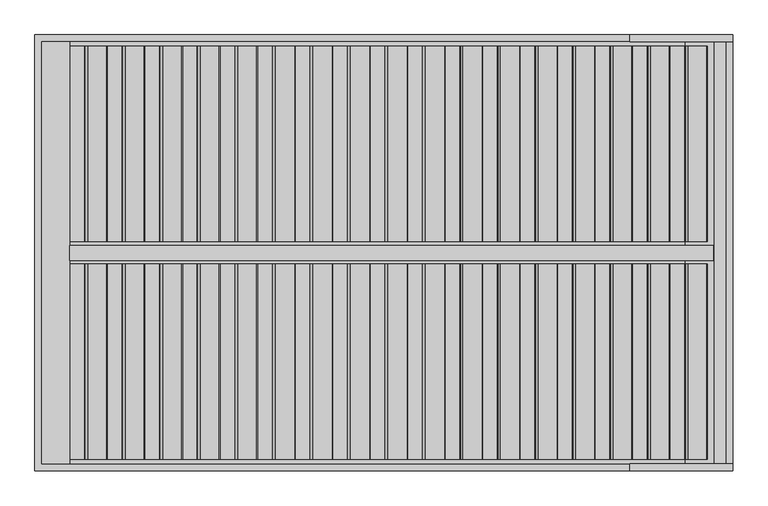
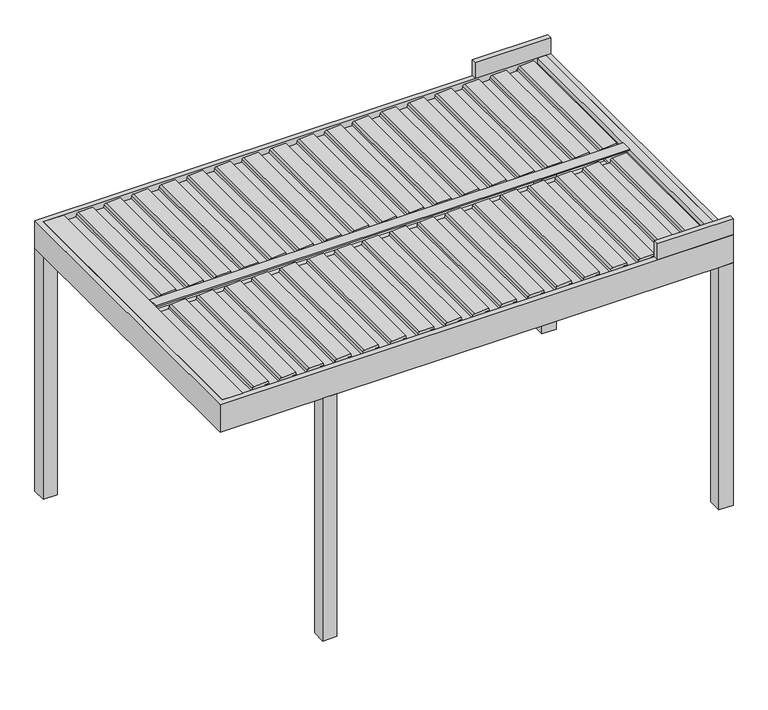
"""IFC4 building model written with IfcOpenShell, lengths in millimetres: proxy geometry, Renson_Algarve_Single Unit With Intermediate Beam : Algarve - Single Unit With Intermediate Beam."""

from ifc_helpers import new_model, si_unit, point, frame, frame_2d, origin, origin_with_axes, place, context, project, spatial, polyline, circle_curve, trimmed, segment, composite_curve, outline, extrude, faceted_brep, source, transform, mapped, element, save


def generic_models_242e71fc(model_context):
    return source(origin(), model_context, "Body", "SolidModel", [
        extrude(outline(composite_curve([segment(polyline([(2188.35, 1609.6114167), (2216.01198, 1612.0315264), (2217.3970364, 1640.8667769), (2236.8911096, 1637.4294458), (2231.6075693, 1527.4323309)]), True, "CONTINUOUS"), segment(trimmed(circle_curve(frame_2d((2216.6248435, 1528.1520029)), 15.0), [point((2231.6075693, 1527.4323309))], [point((2219.2295662, 1513.3798866))], False, "CARTESIAN"), True, "CONTINUOUS"), segment(polyline([(2219.2295662, 1513.3798866), (2200.0, 1509.9891952), (2200.0, 1422.2534192), (2217.0788237, 1419.2419618), (2216.3450182, 1403.9649913), (2188.35, 1401.5157446), (2188.35, 1609.6114167)]), True, "CONTINUOUS")], self_intersect=False)), frame((0.0, -1810.0, 0.0), z_axis=(0.0, 1.0, 0.0), x_axis=(0.0, 0.0, 1.0)), (0.0, 0.0, 1.0), 1120.0),
        extrude(outline(composite_curve([segment(polyline([(2188.35, 1394.600612), (2216.01198, 1397.0207216), (2217.3970364, 1425.8559721), (2236.8911096, 1422.418641), (2231.6075693, 1312.4215261)]), True, "CONTINUOUS"), segment(trimmed(circle_curve(frame_2d((2216.6248435, 1313.1411981)), 15.0), [point((2231.6075693, 1312.4215261))], [point((2219.2295662, 1298.3690818))], False, "CARTESIAN"), True, "CONTINUOUS"), segment(polyline([(2219.2295662, 1298.3690818), (2200.0, 1294.9783904), (2200.0, 1207.2426144), (2217.0788237, 1204.231157), (2216.3450182, 1188.9541865), (2188.35, 1186.5049398), (2188.35, 1394.600612)]), True, "CONTINUOUS")], self_intersect=False)), frame((0.0, -1810.0, 0.0), z_axis=(0.0, 1.0, 0.0), x_axis=(0.0, 0.0, 1.0)), (0.0, 0.0, 1.0), 1120.0),
        extrude(outline(composite_curve([segment(polyline([(2188.35, 1179.5898072), (2216.01198, 1182.0099168), (2217.3970364, 1210.8451673), (2236.8911096, 1207.4078362), (2231.6075693, 1097.4107214)]), True, "CONTINUOUS"), segment(trimmed(circle_curve(frame_2d((2216.6248435, 1098.1303933)), 15.0), [point((2231.6075693, 1097.4107214))], [point((2219.2295662, 1083.358277))], False, "CARTESIAN"), True, "CONTINUOUS"), segment(polyline([(2219.2295662, 1083.358277), (2200.0, 1079.9675857), (2200.0, 992.2318096), (2217.0788237, 989.2203522), (2216.3450182, 973.9433817), (2188.35, 971.494135), (2188.35, 1179.5898072)]), True, "CONTINUOUS")], self_intersect=False)), frame((0.0, -1810.0, 0.0), z_axis=(0.0, 1.0, 0.0), x_axis=(0.0, 0.0, 1.0)), (0.0, 0.0, 1.0), 1120.0),
        extrude(outline(composite_curve([segment(polyline([(2188.35, 964.5790024), (2216.01198, 966.999112), (2217.3970364, 995.8343625), (2236.8911096, 992.3970314), (2231.6075693, 882.3999166)]), True, "CONTINUOUS"), segment(trimmed(circle_curve(frame_2d((2216.6248435, 883.1195885)), 15.0), [point((2231.6075693, 882.3999166))], [point((2219.2295662, 868.3474722))], False, "CARTESIAN"), True, "CONTINUOUS"), segment(polyline([(2219.2295662, 868.3474722), (2200.0, 864.9567809), (2200.0, 777.2210048), (2217.0788237, 774.2095474), (2216.3450182, 758.932577), (2188.35, 756.4833302), (2188.35, 964.5790024)]), True, "CONTINUOUS")], self_intersect=False)), frame((0.0, -1810.0, 0.0), z_axis=(0.0, 1.0, 0.0), x_axis=(0.0, 0.0, 1.0)), (0.0, 0.0, 1.0), 1120.0),
        extrude(outline(composite_curve([segment(polyline([(2188.35, 749.5681976), (2216.01198, 751.9883073), (2217.3970364, 780.8235577), (2236.8911096, 777.3862267), (2231.6075693, 667.3891118)]), True, "CONTINUOUS"), segment(trimmed(circle_curve(frame_2d((2216.6248435, 668.1087837)), 15.0), [point((2231.6075693, 667.3891118))], [point((2219.2295662, 653.3366674))], False, "CARTESIAN"), True, "CONTINUOUS"), segment(polyline([(2219.2295662, 653.3366674), (2200.0, 649.9459761), (2200.0, 562.2102001), (2217.0788237, 559.1987426), (2216.3450182, 543.9217722), (2188.35, 541.4725254), (2188.35, 749.5681976)]), True, "CONTINUOUS")], self_intersect=False)), frame((0.0, -1810.0, 0.0), z_axis=(0.0, 1.0, 0.0), x_axis=(0.0, 0.0, 1.0)), (0.0, 0.0, 1.0), 1120.0),
        extrude(outline(composite_curve([segment(polyline([(2188.35, 534.5573928), (2216.01198, 536.9775025), (2217.3970364, 565.8127529), (2236.8911096, 562.3754219), (2231.6075693, 452.378307)]), True, "CONTINUOUS"), segment(trimmed(circle_curve(frame_2d((2216.6248435, 453.0979789)), 15.0), [point((2231.6075693, 452.378307))], [point((2219.2295662, 438.3258627))], False, "CARTESIAN"), True, "CONTINUOUS"), segment(polyline([(2219.2295662, 438.3258627), (2200.0, 434.9351713), (2200.0, 347.1993953), (2217.0788237, 344.1879379), (2216.3450182, 328.9109674), (2188.35, 326.4617207), (2188.35, 534.5573928)]), True, "CONTINUOUS")], self_intersect=False)), frame((0.0, -1810.0, 0.0), z_axis=(0.0, 1.0, 0.0), x_axis=(0.0, 0.0, 1.0)), (0.0, 0.0, 1.0), 1120.0),
        extrude(outline(composite_curve([segment(polyline([(2188.35, 319.546588), (2216.01198, 321.9666977), (2217.3970364, 350.8019482), (2236.8911096, 347.3646171), (2231.6075693, 237.3675022)]), True, "CONTINUOUS"), segment(trimmed(circle_curve(frame_2d((2216.6248435, 238.0871742)), 15.0), [point((2231.6075693, 237.3675022))], [point((2219.2295662, 223.3150579))], False, "CARTESIAN"), True, "CONTINUOUS"), segment(polyline([(2219.2295662, 223.3150579), (2200.0, 219.9243665), (2200.0, 132.1885905), (2217.0788237, 129.1771331), (2216.3450182, 113.9001626), (2188.35, 111.4509159), (2188.35, 319.546588)]), True, "CONTINUOUS")], self_intersect=False)), frame((0.0, -1810.0, 0.0), z_axis=(0.0, 1.0, 0.0), x_axis=(0.0, 0.0, 1.0)), (0.0, 0.0, 1.0), 1120.0),
        extrude(outline(composite_curve([segment(polyline([(2188.35, 104.5357833), (2216.01198, 106.9558929), (2217.3970364, 135.7911434), (2236.8911096, 132.3538123), (2231.6075693, 22.3566975)]), True, "CONTINUOUS"), segment(trimmed(circle_curve(frame_2d((2216.6248435, 23.0763694)), 15.0), [point((2231.6075693, 22.3566975))], [point((2219.2295662, 8.3042531))], False, "CARTESIAN"), True, "CONTINUOUS"), segment(polyline([(2219.2295662, 8.3042531), (2200.0, 4.9135617), (2200.0, -82.8222143), (2217.0788237, -85.8336717), (2216.3450182, -101.1106422), (2188.35, -103.5598889), (2188.35, 104.5357833)]), True, "CONTINUOUS")], self_intersect=False)), frame((0.0, -1810.0, 0.0), z_axis=(0.0, 1.0, 0.0), x_axis=(0.0, 0.0, 1.0)), (0.0, 0.0, 1.0), 1120.0),
        extrude(outline(composite_curve([segment(polyline([(2188.35, -110.4750215), (2216.01198, -108.0549119), (2217.3970364, -79.2196614), (2236.8911096, -82.6569925), (2231.6075693, -192.6541073)]), True, "CONTINUOUS"), segment(trimmed(circle_curve(frame_2d((2216.6248435, -191.9344354)), 15.0), [point((2231.6075693, -192.6541073))], [point((2219.2295662, -206.7065517))], False, "CARTESIAN"), True, "CONTINUOUS"), segment(polyline([(2219.2295662, -206.7065517), (2200.0, -210.097243), (2200.0, -297.8330191), (2217.0788237, -300.8444765), (2216.3450182, -316.121447), (2188.35, -318.5706937), (2188.35, -110.4750215)]), True, "CONTINUOUS")], self_intersect=False)), frame((0.0, -1810.0, 0.0), z_axis=(0.0, 1.0, 0.0), x_axis=(0.0, 0.0, 1.0)), (0.0, 0.0, 1.0), 1120.0),
        extrude(outline(composite_curve([segment(polyline([(2188.35, -325.4858263), (2216.01198, -323.0657166), (2217.3970364, -294.2304662), (2236.8911096, -297.6677973), (2231.6075693, -407.6649121)]), True, "CONTINUOUS"), segment(trimmed(circle_curve(frame_2d((2216.6248435, -406.9452402)), 15.0), [point((2231.6075693, -407.6649121))], [point((2219.2295662, -421.7173565))], False, "CARTESIAN"), True, "CONTINUOUS"), segment(polyline([(2219.2295662, -421.7173565), (2200.0, -425.1080478), (2200.0, -512.8438238), (2217.0788237, -515.8552813), (2216.3450182, -531.1322517), (2188.35, -533.5814985), (2188.35, -325.4858263)]), True, "CONTINUOUS")], self_intersect=False)), frame((0.0, -1810.0, 0.0), z_axis=(0.0, 1.0, 0.0), x_axis=(0.0, 0.0, 1.0)), (0.0, 0.0, 1.0), 1120.0),
        extrude(outline(composite_curve([segment(polyline([(2188.35, -540.4966311), (2216.01198, -538.0765214), (2217.3970364, -509.241271), (2236.8911096, -512.678602), (2231.6075693, -622.6757169)]), True, "CONTINUOUS"), segment(trimmed(circle_curve(frame_2d((2216.6248435, -621.956045)), 15.0), [point((2231.6075693, -622.6757169))], [point((2219.2295662, -636.7281613))], False, "CARTESIAN"), True, "CONTINUOUS"), segment(polyline([(2219.2295662, -636.7281613), (2200.0, -640.1188526), (2200.0, -727.8546286), (2217.0788237, -730.866086), (2216.3450182, -746.1430565), (2188.35, -748.5923032), (2188.35, -540.4966311)]), True, "CONTINUOUS")], self_intersect=False)), frame((0.0, -1810.0, 0.0), z_axis=(0.0, 1.0, 0.0), x_axis=(0.0, 0.0, 1.0)), (0.0, 0.0, 1.0), 1120.0),
        extrude(outline(composite_curve([segment(polyline([(2188.35, -755.5074359), (2216.01198, -753.0873262), (2217.3970364, -724.2520757), (2236.8911096, -727.6894068), (2231.6075693, -837.6865217)]), True, "CONTINUOUS"), segment(trimmed(circle_curve(frame_2d((2216.6248435, -836.9668497)), 15.0), [point((2231.6075693, -837.6865217))], [point((2219.2295662, -851.738966))], False, "CARTESIAN"), True, "CONTINUOUS"), segment(polyline([(2219.2295662, -851.738966), (2200.0, -855.1296574), (2200.0, -942.8654334), (2217.0788237, -945.8768908), (2216.3450182, -961.1538613), (2188.35, -963.603108), (2188.35, -755.5074359)]), True, "CONTINUOUS")], self_intersect=False)), frame((0.0, -1810.0, 0.0), z_axis=(0.0, 1.0, 0.0), x_axis=(0.0, 0.0, 1.0)), (0.0, 0.0, 1.0), 1120.0),
        extrude(outline(composite_curve([segment(polyline([(2188.35, -970.5182406), (2216.01198, -968.098131), (2217.3970364, -939.2628805), (2236.8911096, -942.7002116), (2231.6075693, -1052.6973265)]), True, "CONTINUOUS"), segment(trimmed(circle_curve(frame_2d((2216.6248435, -1051.9776545)), 15.0), [point((2231.6075693, -1052.6973265))], [point((2219.2295662, -1066.7497708))], False, "CARTESIAN"), True, "CONTINUOUS"), segment(polyline([(2219.2295662, -1066.7497708), (2200.0, -1070.1404622), (2200.0, -1157.8762382), (2217.0788237, -1160.8876956), (2216.3450182, -1176.1646661), (2188.35, -1178.6139128), (2188.35, -970.5182406)]), True, "CONTINUOUS")], self_intersect=False)), frame((0.0, -1810.0, 0.0), z_axis=(0.0, 1.0, 0.0), x_axis=(0.0, 0.0, 1.0)), (0.0, 0.0, 1.0), 1120.0),
        extrude(outline(composite_curve([segment(polyline([(2188.35, -1185.5290454), (2216.01198, -1183.1089358), (2217.3970364, -1154.2736853), (2236.8911096, -1157.7110164), (2231.6075693, -1267.7081312)]), True, "CONTINUOUS"), segment(trimmed(circle_curve(frame_2d((2216.6248435, -1266.9884593)), 15.0), [point((2231.6075693, -1267.7081312))], [point((2219.2295662, -1281.7605756))], False, "CARTESIAN"), True, "CONTINUOUS"), segment(polyline([(2219.2295662, -1281.7605756), (2200.0, -1285.1512669), (2200.0, -1372.887043), (2217.0788237, -1375.8985004), (2216.3450182, -1391.1754709), (2188.35, -1393.6247176), (2188.35, -1185.5290454)]), True, "CONTINUOUS")], self_intersect=False)), frame((0.0, -1810.0, 0.0), z_axis=(0.0, 1.0, 0.0), x_axis=(0.0, 0.0, 1.0)), (0.0, 0.0, 1.0), 1120.0),
        extrude(outline(composite_curve([segment(polyline([(2188.35, -1400.5398502), (2216.01198, -1398.1197405), (2217.3970364, -1369.2844901), (2236.8911096, -1372.7218212), (2231.6075693, -1482.718936)]), True, "CONTINUOUS"), segment(trimmed(circle_curve(frame_2d((2216.6248435, -1481.9992641)), 15.0), [point((2231.6075693, -1482.718936))], [point((2219.2295662, -1496.7713804))], False, "CARTESIAN"), True, "CONTINUOUS"), segment(polyline([(2219.2295662, -1496.7713804), (2200.0, -1500.1620717), (2200.0, -1587.8978478), (2217.0788237, -1590.9093052), (2216.3450182, -1606.1862756), (2188.35, -1608.6355224), (2188.35, -1400.5398502)]), True, "CONTINUOUS")], self_intersect=False)), frame((0.0, -1810.0, 0.0), z_axis=(0.0, 1.0, 0.0), x_axis=(0.0, 0.0, 1.0)), (0.0, 0.0, 1.0), 1120.0),
        extrude(outline(composite_curve([segment(polyline([(2188.35, 1824.6222215), (2216.01198, 1827.0423312), (2217.3970364, 1855.8775816), (2236.8911096, 1852.4402506), (2231.6075693, 1742.4431357)]), True, "CONTINUOUS"), segment(trimmed(circle_curve(frame_2d((2216.6248435, 1743.1628076)), 15.0), [point((2231.6075693, 1742.4431357))], [point((2219.2295662, 1728.3906913))], False, "CARTESIAN"), True, "CONTINUOUS"), segment(polyline([(2219.2295662, 1728.3906913), (2200.0, 1725.0), (2200.0, 1637.264224), (2217.0788237, 1634.2527666), (2216.3450182, 1618.9757961), (2188.35, 1616.5265494), (2188.35, 1824.6222215)]), True, "CONTINUOUS")], self_intersect=False)), frame((0.0, -1810.0, 0.0), z_axis=(0.0, 1.0, 0.0), x_axis=(0.0, 0.0, 1.0)), (0.0, 0.0, 1.0), 1120.0),
        extrude(outline(composite_curve([segment(polyline([(2188.35, -1615.550655), (2216.01198, -1613.1305453), (2217.3970364, -1584.2952949), (2236.8911096, -1587.7326259), (2231.6075693, -1697.7297408)]), True, "CONTINUOUS"), segment(trimmed(circle_curve(frame_2d((2216.6248435, -1697.0100689)), 15.0), [point((2231.6075693, -1697.7297408))], [point((2219.2295662, -1711.7821852))], False, "CARTESIAN"), True, "CONTINUOUS"), segment(polyline([(2219.2295662, -1711.7821852), (2200.0, -1715.1728765), (2200.0, -1802.9086525), (2217.0788237, -1805.9201099), (2216.3450182, -1821.1970804), (2188.35, -1823.6463271), (2188.35, -1615.550655)]), True, "CONTINUOUS")], self_intersect=False)), frame((0.0, -1810.0, 0.0), z_axis=(0.0, 1.0, 0.0), x_axis=(0.0, 0.0, 1.0)), (0.0, 0.0, 1.0), 1120.0),
        extrude(outline(composite_curve([segment(polyline([(2188.35, 1609.6114167), (2216.01198, 1612.0315264), (2217.3970364, 1640.8667769), (2236.8911096, 1637.4294458), (2231.6075693, 1527.4323309)]), True, "CONTINUOUS"), segment(trimmed(circle_curve(frame_2d((2216.6248435, 1528.1520029)), 15.0), [point((2231.6075693, 1527.4323309))], [point((2219.2295662, 1513.3798866))], False, "CARTESIAN"), True, "CONTINUOUS"), segment(polyline([(2219.2295662, 1513.3798866), (2200.0, 1509.9891952), (2200.0, 1422.2534192), (2217.0788237, 1419.2419618), (2216.3450182, 1403.9649913), (2188.35, 1401.5157446), (2188.35, 1609.6114167)]), True, "CONTINUOUS")], self_intersect=False)), frame((0.0, -560.0, 0.0), z_axis=(0.0, 1.0, 0.0), x_axis=(0.0, 0.0, 1.0)), (0.0, 0.0, 1.0), 1120.0),
        extrude(outline(composite_curve([segment(polyline([(2188.35, 1394.600612), (2216.01198, 1397.0207216), (2217.3970364, 1425.8559721), (2236.8911096, 1422.418641), (2231.6075693, 1312.4215261)]), True, "CONTINUOUS"), segment(trimmed(circle_curve(frame_2d((2216.6248435, 1313.1411981)), 15.0), [point((2231.6075693, 1312.4215261))], [point((2219.2295662, 1298.3690818))], False, "CARTESIAN"), True, "CONTINUOUS"), segment(polyline([(2219.2295662, 1298.3690818), (2200.0, 1294.9783904), (2200.0, 1207.2426144), (2217.0788237, 1204.231157), (2216.3450182, 1188.9541865), (2188.35, 1186.5049398), (2188.35, 1394.600612)]), True, "CONTINUOUS")], self_intersect=False)), frame((0.0, -560.0, 0.0), z_axis=(0.0, 1.0, 0.0), x_axis=(0.0, 0.0, 1.0)), (0.0, 0.0, 1.0), 1120.0),
        extrude(outline(composite_curve([segment(polyline([(2188.35, 1179.5898072), (2216.01198, 1182.0099168), (2217.3970364, 1210.8451673), (2236.8911096, 1207.4078362), (2231.6075693, 1097.4107214)]), True, "CONTINUOUS"), segment(trimmed(circle_curve(frame_2d((2216.6248435, 1098.1303933)), 15.0), [point((2231.6075693, 1097.4107214))], [point((2219.2295662, 1083.358277))], False, "CARTESIAN"), True, "CONTINUOUS"), segment(polyline([(2219.2295662, 1083.358277), (2200.0, 1079.9675857), (2200.0, 992.2318096), (2217.0788237, 989.2203522), (2216.3450182, 973.9433817), (2188.35, 971.494135), (2188.35, 1179.5898072)]), True, "CONTINUOUS")], self_intersect=False)), frame((0.0, -560.0, 0.0), z_axis=(0.0, 1.0, 0.0), x_axis=(0.0, 0.0, 1.0)), (0.0, 0.0, 1.0), 1120.0),
        extrude(outline(composite_curve([segment(polyline([(2188.35, 964.5790024), (2216.01198, 966.999112), (2217.3970364, 995.8343625), (2236.8911096, 992.3970314), (2231.6075693, 882.3999166)]), True, "CONTINUOUS"), segment(trimmed(circle_curve(frame_2d((2216.6248435, 883.1195885)), 15.0), [point((2231.6075693, 882.3999166))], [point((2219.2295662, 868.3474722))], False, "CARTESIAN"), True, "CONTINUOUS"), segment(polyline([(2219.2295662, 868.3474722), (2200.0, 864.9567809), (2200.0, 777.2210048), (2217.0788237, 774.2095474), (2216.3450182, 758.932577), (2188.35, 756.4833302), (2188.35, 964.5790024)]), True, "CONTINUOUS")], self_intersect=False)), frame((0.0, -560.0, 0.0), z_axis=(0.0, 1.0, 0.0), x_axis=(0.0, 0.0, 1.0)), (0.0, 0.0, 1.0), 1120.0),
        extrude(outline(composite_curve([segment(polyline([(2188.35, 749.5681976), (2216.01198, 751.9883073), (2217.3970364, 780.8235577), (2236.8911096, 777.3862267), (2231.6075693, 667.3891118)]), True, "CONTINUOUS"), segment(trimmed(circle_curve(frame_2d((2216.6248435, 668.1087837)), 15.0), [point((2231.6075693, 667.3891118))], [point((2219.2295662, 653.3366674))], False, "CARTESIAN"), True, "CONTINUOUS"), segment(polyline([(2219.2295662, 653.3366674), (2200.0, 649.9459761), (2200.0, 562.2102001), (2217.0788237, 559.1987426), (2216.3450182, 543.9217722), (2188.35, 541.4725254), (2188.35, 749.5681976)]), True, "CONTINUOUS")], self_intersect=False)), frame((0.0, -560.0, 0.0), z_axis=(0.0, 1.0, 0.0), x_axis=(0.0, 0.0, 1.0)), (0.0, 0.0, 1.0), 1120.0),
        extrude(outline(composite_curve([segment(polyline([(2188.35, 534.5573928), (2216.01198, 536.9775025), (2217.3970364, 565.8127529), (2236.8911096, 562.3754219), (2231.6075693, 452.378307)]), True, "CONTINUOUS"), segment(trimmed(circle_curve(frame_2d((2216.6248435, 453.0979789)), 15.0), [point((2231.6075693, 452.378307))], [point((2219.2295662, 438.3258627))], False, "CARTESIAN"), True, "CONTINUOUS"), segment(polyline([(2219.2295662, 438.3258627), (2200.0, 434.9351713), (2200.0, 347.1993953), (2217.0788237, 344.1879379), (2216.3450182, 328.9109674), (2188.35, 326.4617207), (2188.35, 534.5573928)]), True, "CONTINUOUS")], self_intersect=False)), frame((0.0, -560.0, 0.0), z_axis=(0.0, 1.0, 0.0), x_axis=(0.0, 0.0, 1.0)), (0.0, 0.0, 1.0), 1120.0),
        extrude(outline(composite_curve([segment(polyline([(2188.35, 319.546588), (2216.01198, 321.9666977), (2217.3970364, 350.8019482), (2236.8911096, 347.3646171), (2231.6075693, 237.3675022)]), True, "CONTINUOUS"), segment(trimmed(circle_curve(frame_2d((2216.6248435, 238.0871742)), 15.0), [point((2231.6075693, 237.3675022))], [point((2219.2295662, 223.3150579))], False, "CARTESIAN"), True, "CONTINUOUS"), segment(polyline([(2219.2295662, 223.3150579), (2200.0, 219.9243665), (2200.0, 132.1885905), (2217.0788237, 129.1771331), (2216.3450182, 113.9001626), (2188.35, 111.4509159), (2188.35, 319.546588)]), True, "CONTINUOUS")], self_intersect=False)), frame((0.0, -560.0, 0.0), z_axis=(0.0, 1.0, 0.0), x_axis=(0.0, 0.0, 1.0)), (0.0, 0.0, 1.0), 1120.0),
        extrude(outline(composite_curve([segment(polyline([(2188.35, 104.5357833), (2216.01198, 106.9558929), (2217.3970364, 135.7911434), (2236.8911096, 132.3538123), (2231.6075693, 22.3566975)]), True, "CONTINUOUS"), segment(trimmed(circle_curve(frame_2d((2216.6248435, 23.0763694)), 15.0), [point((2231.6075693, 22.3566975))], [point((2219.2295662, 8.3042531))], False, "CARTESIAN"), True, "CONTINUOUS"), segment(polyline([(2219.2295662, 8.3042531), (2200.0, 4.9135617), (2200.0, -82.8222143), (2217.0788237, -85.8336717), (2216.3450182, -101.1106422), (2188.35, -103.5598889), (2188.35, 104.5357833)]), True, "CONTINUOUS")], self_intersect=False)), frame((0.0, -560.0, 0.0), z_axis=(0.0, 1.0, 0.0), x_axis=(0.0, 0.0, 1.0)), (0.0, 0.0, 1.0), 1120.0),
        extrude(outline(composite_curve([segment(polyline([(2188.35, -110.4750215), (2216.01198, -108.0549119), (2217.3970364, -79.2196614), (2236.8911096, -82.6569925), (2231.6075693, -192.6541073)]), True, "CONTINUOUS"), segment(trimmed(circle_curve(frame_2d((2216.6248435, -191.9344354)), 15.0), [point((2231.6075693, -192.6541073))], [point((2219.2295662, -206.7065517))], False, "CARTESIAN"), True, "CONTINUOUS"), segment(polyline([(2219.2295662, -206.7065517), (2200.0, -210.097243), (2200.0, -297.8330191), (2217.0788237, -300.8444765), (2216.3450182, -316.121447), (2188.35, -318.5706937), (2188.35, -110.4750215)]), True, "CONTINUOUS")], self_intersect=False)), frame((0.0, -560.0, 0.0), z_axis=(0.0, 1.0, 0.0), x_axis=(0.0, 0.0, 1.0)), (0.0, 0.0, 1.0), 1120.0),
        extrude(outline(composite_curve([segment(polyline([(2188.35, -325.4858263), (2216.01198, -323.0657166), (2217.3970364, -294.2304662), (2236.8911096, -297.6677973), (2231.6075693, -407.6649121)]), True, "CONTINUOUS"), segment(trimmed(circle_curve(frame_2d((2216.6248435, -406.9452402)), 15.0), [point((2231.6075693, -407.6649121))], [point((2219.2295662, -421.7173565))], False, "CARTESIAN"), True, "CONTINUOUS"), segment(polyline([(2219.2295662, -421.7173565), (2200.0, -425.1080478), (2200.0, -512.8438238), (2217.0788237, -515.8552813), (2216.3450182, -531.1322517), (2188.35, -533.5814985), (2188.35, -325.4858263)]), True, "CONTINUOUS")], self_intersect=False)), frame((0.0, -560.0, 0.0), z_axis=(0.0, 1.0, 0.0), x_axis=(0.0, 0.0, 1.0)), (0.0, 0.0, 1.0), 1120.0),
        extrude(outline(composite_curve([segment(polyline([(2188.35, -540.4966311), (2216.01198, -538.0765214), (2217.3970364, -509.241271), (2236.8911096, -512.678602), (2231.6075693, -622.6757169)]), True, "CONTINUOUS"), segment(trimmed(circle_curve(frame_2d((2216.6248435, -621.956045)), 15.0), [point((2231.6075693, -622.6757169))], [point((2219.2295662, -636.7281613))], False, "CARTESIAN"), True, "CONTINUOUS"), segment(polyline([(2219.2295662, -636.7281613), (2200.0, -640.1188526), (2200.0, -727.8546286), (2217.0788237, -730.866086), (2216.3450182, -746.1430565), (2188.35, -748.5923032), (2188.35, -540.4966311)]), True, "CONTINUOUS")], self_intersect=False)), frame((0.0, -560.0, 0.0), z_axis=(0.0, 1.0, 0.0), x_axis=(0.0, 0.0, 1.0)), (0.0, 0.0, 1.0), 1120.0),
        extrude(outline(composite_curve([segment(polyline([(2188.35, -755.5074359), (2216.01198, -753.0873262), (2217.3970364, -724.2520757), (2236.8911096, -727.6894068), (2231.6075693, -837.6865217)]), True, "CONTINUOUS"), segment(trimmed(circle_curve(frame_2d((2216.6248435, -836.9668497)), 15.0), [point((2231.6075693, -837.6865217))], [point((2219.2295662, -851.738966))], False, "CARTESIAN"), True, "CONTINUOUS"), segment(polyline([(2219.2295662, -851.738966), (2200.0, -855.1296574), (2200.0, -942.8654334), (2217.0788237, -945.8768908), (2216.3450182, -961.1538613), (2188.35, -963.603108), (2188.35, -755.5074359)]), True, "CONTINUOUS")], self_intersect=False)), frame((0.0, -560.0, 0.0), z_axis=(0.0, 1.0, 0.0), x_axis=(0.0, 0.0, 1.0)), (0.0, 0.0, 1.0), 1120.0),
        extrude(outline(composite_curve([segment(polyline([(2188.35, -970.5182406), (2216.01198, -968.098131), (2217.3970364, -939.2628805), (2236.8911096, -942.7002116), (2231.6075693, -1052.6973265)]), True, "CONTINUOUS"), segment(trimmed(circle_curve(frame_2d((2216.6248435, -1051.9776545)), 15.0), [point((2231.6075693, -1052.6973265))], [point((2219.2295662, -1066.7497708))], False, "CARTESIAN"), True, "CONTINUOUS"), segment(polyline([(2219.2295662, -1066.7497708), (2200.0, -1070.1404622), (2200.0, -1157.8762382), (2217.0788237, -1160.8876956), (2216.3450182, -1176.1646661), (2188.35, -1178.6139128), (2188.35, -970.5182406)]), True, "CONTINUOUS")], self_intersect=False)), frame((0.0, -560.0, 0.0), z_axis=(0.0, 1.0, 0.0), x_axis=(0.0, 0.0, 1.0)), (0.0, 0.0, 1.0), 1120.0),
        extrude(outline(composite_curve([segment(polyline([(2188.35, -1185.5290454), (2216.01198, -1183.1089358), (2217.3970364, -1154.2736853), (2236.8911096, -1157.7110164), (2231.6075693, -1267.7081312)]), True, "CONTINUOUS"), segment(trimmed(circle_curve(frame_2d((2216.6248435, -1266.9884593)), 15.0), [point((2231.6075693, -1267.7081312))], [point((2219.2295662, -1281.7605756))], False, "CARTESIAN"), True, "CONTINUOUS"), segment(polyline([(2219.2295662, -1281.7605756), (2200.0, -1285.1512669), (2200.0, -1372.887043), (2217.0788237, -1375.8985004), (2216.3450182, -1391.1754709), (2188.35, -1393.6247176), (2188.35, -1185.5290454)]), True, "CONTINUOUS")], self_intersect=False)), frame((0.0, -560.0, 0.0), z_axis=(0.0, 1.0, 0.0), x_axis=(0.0, 0.0, 1.0)), (0.0, 0.0, 1.0), 1120.0),
        extrude(outline(composite_curve([segment(polyline([(2188.35, -1400.5398502), (2216.01198, -1398.1197405), (2217.3970364, -1369.2844901), (2236.8911096, -1372.7218212), (2231.6075693, -1482.718936)]), True, "CONTINUOUS"), segment(trimmed(circle_curve(frame_2d((2216.6248435, -1481.9992641)), 15.0), [point((2231.6075693, -1482.718936))], [point((2219.2295662, -1496.7713804))], False, "CARTESIAN"), True, "CONTINUOUS"), segment(polyline([(2219.2295662, -1496.7713804), (2200.0, -1500.1620717), (2200.0, -1587.8978478), (2217.0788237, -1590.9093052), (2216.3450182, -1606.1862756), (2188.35, -1608.6355224), (2188.35, -1400.5398502)]), True, "CONTINUOUS")], self_intersect=False)), frame((0.0, -560.0, 0.0), z_axis=(0.0, 1.0, 0.0), x_axis=(0.0, 0.0, 1.0)), (0.0, 0.0, 1.0), 1120.0),
        extrude(outline(composite_curve([segment(polyline([(2188.35, 1824.6222215), (2216.01198, 1827.0423312), (2217.3970364, 1855.8775816), (2236.8911096, 1852.4402506), (2231.6075693, 1742.4431357)]), True, "CONTINUOUS"), segment(trimmed(circle_curve(frame_2d((2216.6248435, 1743.1628076)), 15.0), [point((2231.6075693, 1742.4431357))], [point((2219.2295662, 1728.3906913))], False, "CARTESIAN"), True, "CONTINUOUS"), segment(polyline([(2219.2295662, 1728.3906913), (2200.0, 1725.0), (2200.0, 1637.264224), (2217.0788237, 1634.2527666), (2216.3450182, 1618.9757961), (2188.35, 1616.5265494), (2188.35, 1824.6222215)]), True, "CONTINUOUS")], self_intersect=False)), frame((0.0, -560.0, 0.0), z_axis=(0.0, 1.0, 0.0), x_axis=(0.0, 0.0, 1.0)), (0.0, 0.0, 1.0), 1120.0),
        extrude(outline(composite_curve([segment(polyline([(2188.35, -1615.550655), (2216.01198, -1613.1305453), (2217.3970364, -1584.2952949), (2236.8911096, -1587.7326259), (2231.6075693, -1697.7297408)]), True, "CONTINUOUS"), segment(trimmed(circle_curve(frame_2d((2216.6248435, -1697.0100689)), 15.0), [point((2231.6075693, -1697.7297408))], [point((2219.2295662, -1711.7821852))], False, "CARTESIAN"), True, "CONTINUOUS"), segment(polyline([(2219.2295662, -1711.7821852), (2200.0, -1715.1728765), (2200.0, -1802.9086525), (2217.0788237, -1805.9201099), (2216.3450182, -1821.1970804), (2188.35, -1823.6463271), (2188.35, -1615.550655)]), True, "CONTINUOUS")], self_intersect=False)), frame((0.0, -560.0, 0.0), z_axis=(0.0, 1.0, 0.0), x_axis=(0.0, 0.0, 1.0)), (0.0, 0.0, 1.0), 1120.0),
        extrude(outline(polyline([(2168.0, 1960.0), (2230.0, 1960.0), (2230.0, 1896.0), (2188.0, 1896.0), (2188.0, 1730.0), (2168.0, 1730.0), (2168.0, 1960.0)])), frame((0.0, -1835.0, 0.0), z_axis=(0.0, 1.0, 0.0), x_axis=(0.0, 0.0, 1.0)), (0.0, 0.0, 1.0), 2420.0),
        extrude(outline(polyline([(2230.0, -1800.0), (2230.0, -1960.0), (2186.0, -1960.0), (2186.0, -1827.3193336), (2219.1716603, -1824.4171894), (2220.344502, -1800.0), (2230.0, -1800.0)])), frame((0.0, -1835.0, 0.0), z_axis=(0.0, 1.0, 0.0), x_axis=(0.0, 0.0, 1.0)), (0.0, 0.0, 1.0), 2420.0),
        extrude(outline(polyline([(2000.0, -1835.0), (2000.0, -1875.0), (1410.0, -1875.0), (1410.0, -1835.0), (2000.0, -1835.0)])), frame((0.0, 0.0, 2230.0), z_axis=(0.0, 0.0, 1.0), x_axis=(1.0, 0.0, 0.0)), (0.0, 0.0, 1.0), 130.0),
        extrude(outline(polyline([(1890.0, -588.0), (-1890.0, -588.0), (-1890.0, -515.0), (1890.0, -515.0), (1890.0, -588.0)])), frame((0.0, 0.0, 2000.0), z_axis=(0.0, 0.0, 1.0), x_axis=(1.0, 0.0, 0.0)), (0.0, 0.0, 1.0), 90.0),
        extrude(outline(polyline([(1890.0, -662.0), (1890.0, -735.0), (-1890.0, -735.0), (-1890.0, -662.0), (1890.0, -662.0)])), frame((0.0, 0.0, 2000.0), z_axis=(0.0, 0.0, 1.0), x_axis=(1.0, 0.0, 0.0)), (0.0, 0.0, 1.0), 90.0),
        extrude(outline(polyline([(1890.0, -582.5), (1890.0, -667.5), (-1800.0, -667.5), (-1800.0, -582.5), (1890.0, -582.5)])), frame((0.0, 0.0, 2230.0), z_axis=(0.0, 0.0, 1.0), x_axis=(1.0, 0.0, 0.0)), (0.0, 0.0, 1.0), 10.0),
        extrude(outline(polyline([(-1090.0, -1875.0), (-1200.0, -1875.0), (-1200.0, -1765.0), (-1090.0, -1765.0), (-1090.0, -1875.0)])), origin_with_axes(), (0.0, 0.0, 1.0), 2000.0),
        faceted_brep([(1890.0, 515.0, 2057.0), (1890.0, 515.0, 2000.0), (1890.0, -1765.0, 2000.0), (1890.0, -1765.0, 2057.0), (2000.0, 625.0, 2000.0), (2000.0, 625.0, 2230.0), (2000.0, -1875.0, 2230.0), (2000.0, -1875.0, 2000.0), (1960.0, 585.0, 2230.0), (1960.0, 585.0, 2057.0), (1960.0, -1835.0, 2057.0), (1960.0, -1835.0, 2230.0), (-1890.0, -1765.0, 2000.0), (-1890.0, -1765.0, 2057.0), (-2000.0, -1875.0, 2230.0), (-2000.0, -1875.0, 2000.0), (-1960.0, -1835.0, 2057.0), (-1960.0, -1835.0, 2230.0), (-1890.0, 515.0, 2000.0), (-1890.0, 515.0, 2057.0), (-2000.0, 625.0, 2230.0), (-2000.0, 625.0, 2000.0), (-1960.0, 585.0, 2057.0), (-1960.0, 585.0, 2230.0)], [[[0, 1, 2, 3]], [[4, 5, 6, 7]], [[8, 9, 10, 11]], [[3, 2, 12, 13]], [[7, 6, 14, 15]], [[11, 10, 16, 17]], [[13, 12, 18, 19]], [[15, 14, 20, 21]], [[17, 16, 22, 23]], [[9, 22, 16, 10], [3, 13, 19, 0]], [[19, 18, 1, 0]], [[7, 15, 21, 4], [1, 18, 12, 2]], [[21, 20, 5, 4]], [[5, 20, 14, 6], [11, 17, 23, 8]], [[23, 22, 9, 8]]]),
        extrude(outline(polyline([(2000.0, 625.0), (2000.0, 515.0), (1890.0, 515.0), (1890.0, 625.0), (2000.0, 625.0)])), origin_with_axes(), (0.0, 0.0, 1.0), 2000.0),
        extrude(outline(polyline([(2000.0, -1765.0), (2000.0, -1875.0), (1890.0, -1875.0), (1890.0, -1765.0), (2000.0, -1765.0)])), origin_with_axes(), (0.0, 0.0, 1.0), 2000.0),
        extrude(outline(polyline([(-1890.0, 625.0), (-1890.0, 515.0), (-2000.0, 515.0), (-2000.0, 625.0), (-1890.0, 625.0)])), origin_with_axes(), (0.0, 0.0, 1.0), 2000.0),
        extrude(outline(polyline([(2000.0, 625.0), (2000.0, 585.0), (1410.0, 585.0), (1410.0, 625.0), (2000.0, 625.0)])), frame((0.0, 0.0, 2230.0), z_axis=(0.0, 0.0, 1.0), x_axis=(1.0, 0.0, 0.0)), (0.0, 0.0, 1.0), 130.0),
    ])


if __name__ == "__main__":
    model = new_model("IFC4")
    model_context = context("Model", 3, world=origin())
    ifc_project = project(units=[si_unit("LENGTHUNIT", "METRE", prefix="MILLI")], contexts=[model_context])
    site = spatial("IfcSite", under=ifc_project)
    building = spatial("IfcBuilding", under=site)
    placement = place(None, origin())
    generic_models_shape = generic_models_242e71fc(model_context)
    element("IfcBuildingElementProxy", 1, Name="Renson_Algarve_Single Unit With Intermediate Beam : Algarve - Single Unit With Intermediate Beam", ObjectType="Renson_Algarve_Single Unit With Intermediate Beam : Algarve - Single Unit With Intermediate Beam", at=placement, inside=building, context=model_context, shape_type="MappedRepresentation", body=[
        mapped(generic_models_shape, transform((0.0, 0.0, 0.0), x_axis=(1.0, 0.0, 0.0), y_axis=(0.0, 1.0, 0.0), z_axis=(0.0, 0.0, 1.0))),
    ])
    save(model, "model.ifc")
